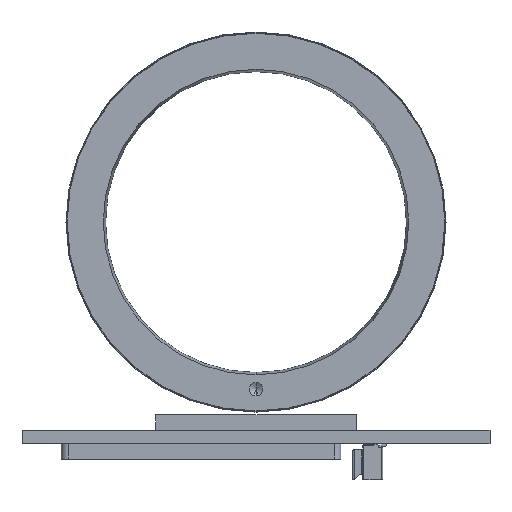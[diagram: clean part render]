
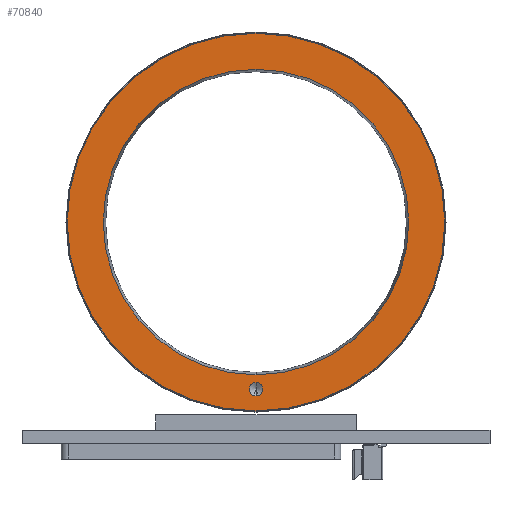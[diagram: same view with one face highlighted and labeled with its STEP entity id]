
A CAD part, front view. The second image highlights one B-rep face of the part: STEP entity #70840.
In plain terms, the highlighted planar face has unit normal (0, -1, 0).
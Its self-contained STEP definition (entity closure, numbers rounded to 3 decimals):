
#157 = ORIENTED_EDGE ( 'NONE', *, *, #52998, .F. ) ;
#1713 = EDGE_LOOP ( 'NONE', ( #32779, #26136 ) ) ;
#2691 = CARTESIAN_POINT ( 'NONE',  ( 0., 0., 22.853 ) ) ;
#2750 = DIRECTION ( 'NONE',  ( 0., -1., 0. ) ) ;
#3110 = DIRECTION ( 'NONE',  ( 0., 0., -1. ) ) ;
#4923 = EDGE_CURVE ( 'NONE', #73933, #24198, #44488, .T. ) ;
#5344 = EDGE_CURVE ( 'NONE', #11444, #25409, #6357, .T. ) ;
#5752 = CARTESIAN_POINT ( 'NONE',  ( 0., 0., -26. ) ) ;
#6152 = CARTESIAN_POINT ( 'NONE',  ( 0., 0., 28.25 ) ) ;
#6357 = CIRCLE ( 'NONE', #29022, 22.853 ) ;
#6761 = ORIENTED_EDGE ( 'NONE', *, *, #50904, .T. ) ;
#11444 = VERTEX_POINT ( 'NONE', #30509 ) ;
#11611 = CARTESIAN_POINT ( 'NONE',  ( 28.45, 0., 0. ) ) ;
#13099 = EDGE_LOOP ( 'NONE', ( #6761, #72260 ) ) ;
#13742 = AXIS2_PLACEMENT_3D ( 'NONE', #68989, #29256, #58482 ) ;
#14293 = CARTESIAN_POINT ( 'NONE',  ( 0., 0., 0. ) ) ;
#16015 = ORIENTED_EDGE ( 'NONE', *, *, #4923, .F. ) ;
#16333 = DIRECTION ( 'NONE',  ( 0., 0., -1. ) ) ;
#16936 = CARTESIAN_POINT ( 'NONE',  ( 0., 0., -28.25 ) ) ;
#18336 = CARTESIAN_POINT ( 'NONE',  ( 0., 0., -25. ) ) ;
#24198 = VERTEX_POINT ( 'NONE', #5752 ) ;
#25297 = CIRCLE ( 'NONE', #27675, 28.25 ) ;
#25409 = VERTEX_POINT ( 'NONE', #2691 ) ;
#26136 = ORIENTED_EDGE ( 'NONE', *, *, #39449, .F. ) ;
#26641 = DIRECTION ( 'NONE',  ( 0., 0., -1. ) ) ;
#27675 = AXIS2_PLACEMENT_3D ( 'NONE', #14293, #2750, #3110 ) ;
#27928 = CARTESIAN_POINT ( 'NONE',  ( 0., 0., 0. ) ) ;
#29022 = AXIS2_PLACEMENT_3D ( 'NONE', #27928, #73251, #16333 ) ;
#29256 = DIRECTION ( 'NONE',  ( 0., -1., 0. ) ) ;
#29289 = AXIS2_PLACEMENT_3D ( 'NONE', #49157, #66379, #26641 ) ;
#29846 = AXIS2_PLACEMENT_3D ( 'NONE', #11611, #34760, #38947 ) ;
#30509 = CARTESIAN_POINT ( 'NONE',  ( 0., 0., -22.853 ) ) ;
#32779 = ORIENTED_EDGE ( 'NONE', *, *, #5344, .F. ) ;
#34006 = CIRCLE ( 'NONE', #29289, 22.853 ) ;
#34147 = CARTESIAN_POINT ( 'NONE',  ( 0., 0., 0. ) ) ;
#34760 = DIRECTION ( 'NONE',  ( 0., -1., 0. ) ) ;
#38203 = PLANE ( 'NONE',  #29846 ) ;
#38947 = DIRECTION ( 'NONE',  ( 0., 0., -1. ) ) ;
#39434 = DIRECTION ( 'NONE',  ( 0., -1., 0. ) ) ;
#39449 = EDGE_CURVE ( 'NONE', #25409, #11444, #34006, .T. ) ;
#39929 = EDGE_LOOP ( 'NONE', ( #157, #16015 ) ) ;
#44214 = FACE_BOUND ( 'NONE', #39929, .T. ) ;
#44488 = CIRCLE ( 'NONE', #58862, 1. ) ;
#47424 = VERTEX_POINT ( 'NONE', #6152 ) ;
#49157 = CARTESIAN_POINT ( 'NONE',  ( 0., 0., 0. ) ) ;
#50856 = CIRCLE ( 'NONE', #13742, 1. ) ;
#50904 = EDGE_CURVE ( 'NONE', #64668, #47424, #25297, .T. ) ;
#52998 = EDGE_CURVE ( 'NONE', #24198, #73933, #50856, .T. ) ;
#53347 = CARTESIAN_POINT ( 'NONE',  ( 0., 0., -24. ) ) ;
#53544 = DIRECTION ( 'NONE',  ( 0., 0., -1. ) ) ;
#58421 = DIRECTION ( 'NONE',  ( 0., -1., 0. ) ) ;
#58482 = DIRECTION ( 'NONE',  ( 0., 0., -1. ) ) ;
#58862 = AXIS2_PLACEMENT_3D ( 'NONE', #18336, #58421, #53544 ) ;
#59976 = AXIS2_PLACEMENT_3D ( 'NONE', #34147, #39434, #68654 ) ;
#60731 = FACE_OUTER_BOUND ( 'NONE', #13099, .T. ) ;
#63581 = CIRCLE ( 'NONE', #59976, 28.25 ) ;
#64668 = VERTEX_POINT ( 'NONE', #16936 ) ;
#65612 = FACE_BOUND ( 'NONE', #1713, .T. ) ;
#66328 = EDGE_CURVE ( 'NONE', #47424, #64668, #63581, .T. ) ;
#66379 = DIRECTION ( 'NONE',  ( 0., -1., 0. ) ) ;
#68654 = DIRECTION ( 'NONE',  ( 0., 0., -1. ) ) ;
#68989 = CARTESIAN_POINT ( 'NONE',  ( 0., 0., -25. ) ) ;
#70840 = ADVANCED_FACE ( 'NONE', ( #44214, #65612, #60731 ), #38203, .T. ) ;
#72260 = ORIENTED_EDGE ( 'NONE', *, *, #66328, .T. ) ;
#73251 = DIRECTION ( 'NONE',  ( 0., -1., 0. ) ) ;
#73933 = VERTEX_POINT ( 'NONE', #53347 ) ;
